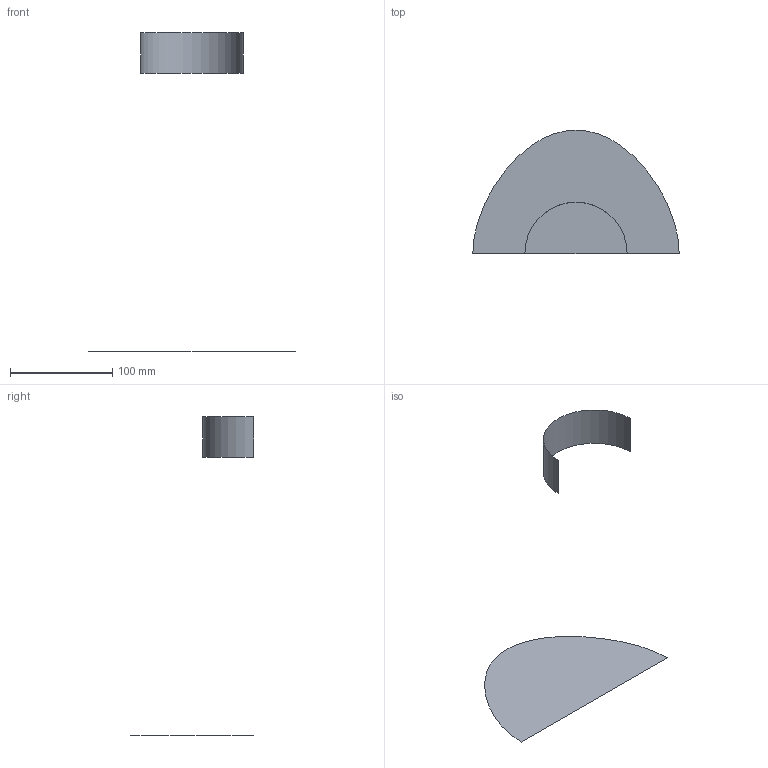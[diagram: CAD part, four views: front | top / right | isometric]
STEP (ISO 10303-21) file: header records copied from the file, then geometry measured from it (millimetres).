
FILE_DESCRIPTION(('CATIA V5 STEP Exchange'),'2;1');
FILE_NAME('C:\_Andres\UNIVERSIDAD\IQS\ASIGNATURAS\DAO\Controles\1617\c1\1original\Espinel_Roig_Ej00-base_v11.stp','2017-02-06T16:27:38+00:00',('none'),('none'),'CATIA Version 5-6 Release 2014 SP1 HF18','CATIA V5 STEP AP203','none');
FILE_SCHEMA(('CONFIG_CONTROL_DESIGN'));
Length unit declared in the file: millimetre
Products named in the file (1): Espinel_Roig_Ej00-base_v11
Bounding box: 202 x 121 x 312 mm (x, y, z)
Surface area: 24698.3 mm2 (no closed solid volume)
Topology: 0 solids, 2 shells, 2 faces, 16 edges, 26 vertices
Faces by surface type: cylinder 1, plane 1
Entity records: 230 total; most frequent: CARTESIAN_POINT 78, DIRECTION 16, COMPOSITE_CURVE_SEGMENT 9, TRIMMED_CURVE 9, AXIS2_PLACEMENT_3D 8, COMPOSITE_CURVE 7, ORIENTED_EDGE 7, EDGE_CURVE 7
